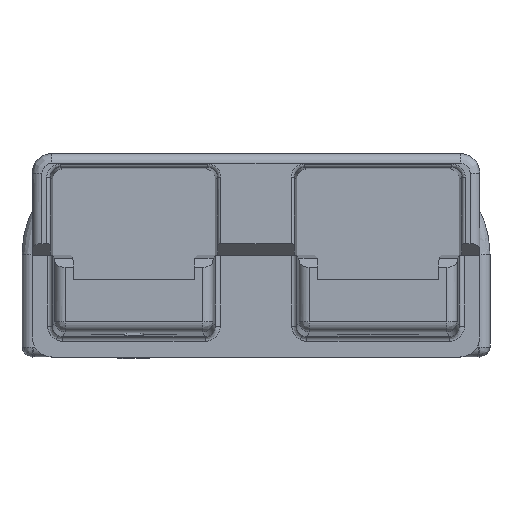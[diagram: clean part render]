
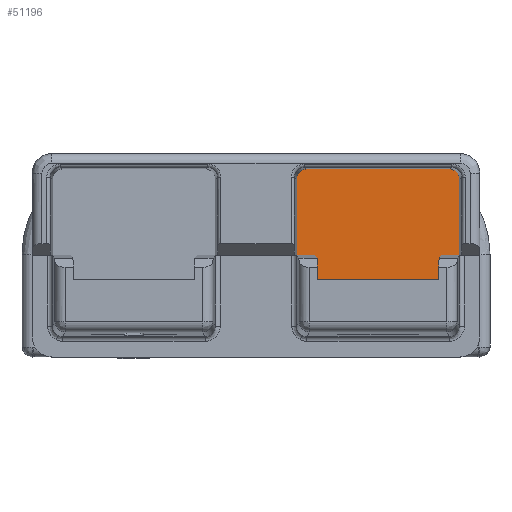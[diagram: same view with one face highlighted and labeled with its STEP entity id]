
A CAD part, front view. The second image highlights one B-rep face of the part: STEP entity #51196.
In plain terms, the highlighted planar face has unit normal (0, -1, 0).
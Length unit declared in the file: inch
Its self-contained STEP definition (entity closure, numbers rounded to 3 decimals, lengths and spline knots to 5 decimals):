
#1097 = VECTOR ( 'NONE', #36789, 39.37008 ) ;
#2072 = VECTOR ( 'NONE', #55573, 39.37008 ) ;
#2077 = ORIENTED_EDGE ( 'NONE', *, *, #55297, .T. ) ;
#2121 = CARTESIAN_POINT ( 'NONE',  ( 0.62493, -0.38582, -0.6121 ) ) ;
#3494 = CARTESIAN_POINT ( 'NONE',  ( 0.12507, -0.38582, -0.84581 ) ) ;
#4922 = CARTESIAN_POINT ( 'NONE',  ( 0.56963, -0.38582, -0.84581 ) ) ;
#4981 = EDGE_CURVE ( 'NONE', #69072, #11287, #77750, .T. ) ;
#5263 = VERTEX_POINT ( 'NONE', #71049 ) ;
#6709 = DIRECTION ( 'NONE',  ( 1., 0., 0. ) ) ;
#7014 = LINE ( 'NONE', #66188, #78593 ) ;
#7981 = EDGE_CURVE ( 'NONE', #30189, #5263, #22646, .T. ) ;
#8677 =( BOUNDED_CURVE ( )  B_SPLINE_CURVE ( 3, ( #11869, #24723, #30784, #43593 ),
 .UNSPECIFIED., .F., .F. ) 
 B_SPLINE_CURVE_WITH_KNOTS ( ( 4, 4 ),
 ( 2.15884, 3.72952 ),
 .UNSPECIFIED. ) 
 CURVE ( )  GEOMETRIC_REPRESENTATION_ITEM ( )  RATIONAL_B_SPLINE_CURVE ( ( 1., 0.805, 0.805, 1. ) ) 
 REPRESENTATION_ITEM ( '' )  );
#8988 = CARTESIAN_POINT ( 'NONE',  ( 0.62493, -0.38582, -0.59379 ) ) ;
#9508 = DIRECTION ( 'NONE',  ( 0., 0., 1. ) ) ;
#9512 = CARTESIAN_POINT ( 'NONE',  ( 0.18037, -0.38582, -0.57581 ) ) ;
#10510 = CARTESIAN_POINT ( 'NONE',  ( 0.56963, -0.38582, -0.57581 ) ) ;
#11287 = VERTEX_POINT ( 'NONE', #25710 ) ;
#11571 = CARTESIAN_POINT ( 'NONE',  ( 0.59368, -0.38582, -0.58085 ) ) ;
#11869 = CARTESIAN_POINT ( 'NONE',  ( 0.15632, -0.38582, -0.58085 ) ) ;
#12862 = CARTESIAN_POINT ( 'NONE',  ( 0.12507, -0.38582, -0.57581 ) ) ;
#13352 = DIRECTION ( 'NONE',  ( 0., -1., 0. ) ) ;
#13983 = VECTOR ( 'NONE', #65129, 39.37008 ) ;
#14319 = VECTOR ( 'NONE', #6709, 39.37008 ) ;
#14568 = ORIENTED_EDGE ( 'NONE', *, *, #7981, .T. ) ;
#15587 = ORIENTED_EDGE ( 'NONE', *, *, #53701, .T. ) ;
#18875 = AXIS2_PLACEMENT_3D ( 'NONE', #19377, #13352, #25693 ) ;
#18960 = VERTEX_POINT ( 'NONE', #73374 ) ;
#19202 = LINE ( 'NONE', #74159, #14319 ) ;
#19377 = CARTESIAN_POINT ( 'NONE',  ( 0.1175, -0.38582, -0.57581 ) ) ;
#19547 = VERTEX_POINT ( 'NONE', #76335 ) ;
#20991 = CARTESIAN_POINT ( 'NONE',  ( 0.62493, -0.38582, -0.57581 ) ) ;
#22421 = VERTEX_POINT ( 'NONE', #3494 ) ;
#22646 = LINE ( 'NONE', #80906, #1097 ) ;
#24723 = CARTESIAN_POINT ( 'NONE',  ( 0.13801, -0.38582, -0.58085 ) ) ;
#24738 = VECTOR ( 'NONE', #75593, 39.37008 ) ;
#25693 = DIRECTION ( 'NONE',  ( 0., 0., -1. ) ) ;
#25710 = CARTESIAN_POINT ( 'NONE',  ( 0.18037, -0.38582, -0.92131 ) ) ;
#28959 = ORIENTED_EDGE ( 'NONE', *, *, #71874, .T. ) ;
#29659 = VERTEX_POINT ( 'NONE', #4922 ) ;
#30189 = VERTEX_POINT ( 'NONE', #11571 ) ;
#30784 = CARTESIAN_POINT ( 'NONE',  ( 0.12507, -0.38582, -0.59379 ) ) ;
#36789 = DIRECTION ( 'NONE',  ( -1., 0., 0. ) ) ;
#37686 = ORIENTED_EDGE ( 'NONE', *, *, #48156, .T. ) ;
#38530 = PLANE ( 'NONE',  #18875 ) ;
#39314 = LINE ( 'NONE', #61593, #2072 ) ;
#39678 = VECTOR ( 'NONE', #54881, 39.37008 ) ;
#40874 = EDGE_CURVE ( 'NONE', #22421, #19547, #41389, .T. ) ;
#41389 = LINE ( 'NONE', #12862, #24738 ) ;
#41605 = EDGE_CURVE ( 'NONE', #69072, #22421, #39314, .T. ) ;
#42198 = VERTEX_POINT ( 'NONE', #50753 ) ;
#43593 = CARTESIAN_POINT ( 'NONE',  ( 0.12507, -0.38582, -0.6121 ) ) ;
#44846 = LINE ( 'NONE', #20991, #50752 ) ;
#44951 = ORIENTED_EDGE ( 'NONE', *, *, #70859, .T. ) ;
#45369 = CARTESIAN_POINT ( 'NONE',  ( 0.61199, -0.38582, -0.58085 ) ) ;
#46128 =( BOUNDED_CURVE ( )  B_SPLINE_CURVE ( 3, ( #2121, #8988, #45369, #52514 ),
 .UNSPECIFIED., .F., .F. ) 
 B_SPLINE_CURVE_WITH_KNOTS ( ( 4, 4 ),
 ( 2.55366, 4.12434 ),
 .UNSPECIFIED. ) 
 CURVE ( )  GEOMETRIC_REPRESENTATION_ITEM ( )  RATIONAL_B_SPLINE_CURVE ( ( 1., 0.805, 0.805, 1. ) ) 
 REPRESENTATION_ITEM ( '' )  );
#46442 = FACE_OUTER_BOUND ( 'NONE', #51284, .T. ) ;
#48156 = EDGE_CURVE ( 'NONE', #29659, #18960, #19202, .T. ) ;
#49043 = CARTESIAN_POINT ( 'NONE',  ( 0.56963, -0.38582, -0.92131 ) ) ;
#50752 = VECTOR ( 'NONE', #9508, 39.37008 ) ;
#50753 = CARTESIAN_POINT ( 'NONE',  ( 0.62493, -0.38582, -0.6121 ) ) ;
#51196 = ADVANCED_FACE ( 'NONE', ( #46442 ), #38530, .T. ) ;
#51284 = EDGE_LOOP ( 'NONE', ( #57848, #68897, #15587, #44951, #37686, #2077, #28959, #14568, #53566, #62532 ) ) ;
#52514 = CARTESIAN_POINT ( 'NONE',  ( 0.59368, -0.38582, -0.58085 ) ) ;
#53566 = ORIENTED_EDGE ( 'NONE', *, *, #56809, .T. ) ;
#53573 = DIRECTION ( 'NONE',  ( 1., 0., 0. ) ) ;
#53701 = EDGE_CURVE ( 'NONE', #11287, #54128, #7014, .T. ) ;
#54128 = VERTEX_POINT ( 'NONE', #49043 ) ;
#54881 = DIRECTION ( 'NONE',  ( 0., 0., 1. ) ) ;
#55297 = EDGE_CURVE ( 'NONE', #18960, #42198, #44846, .T. ) ;
#55573 = DIRECTION ( 'NONE',  ( -1., 0., 0. ) ) ;
#56809 = EDGE_CURVE ( 'NONE', #5263, #19547, #8677, .T. ) ;
#57848 = ORIENTED_EDGE ( 'NONE', *, *, #41605, .F. ) ;
#58313 = LINE ( 'NONE', #10510, #39678 ) ;
#61593 = CARTESIAN_POINT ( 'NONE',  ( -0.6325, -0.38582, -0.84581 ) ) ;
#62532 = ORIENTED_EDGE ( 'NONE', *, *, #40874, .F. ) ;
#65129 = DIRECTION ( 'NONE',  ( 0., 0., -1. ) ) ;
#66188 = CARTESIAN_POINT ( 'NONE',  ( 0.1175, -0.38582, -0.92131 ) ) ;
#68897 = ORIENTED_EDGE ( 'NONE', *, *, #4981, .T. ) ;
#69072 = VERTEX_POINT ( 'NONE', #71393 ) ;
#70859 = EDGE_CURVE ( 'NONE', #54128, #29659, #58313, .T. ) ;
#71049 = CARTESIAN_POINT ( 'NONE',  ( 0.15632, -0.38582, -0.58085 ) ) ;
#71393 = CARTESIAN_POINT ( 'NONE',  ( 0.18037, -0.38582, -0.84581 ) ) ;
#71874 = EDGE_CURVE ( 'NONE', #42198, #30189, #46128, .T. ) ;
#73374 = CARTESIAN_POINT ( 'NONE',  ( 0.62493, -0.38582, -0.84581 ) ) ;
#74159 = CARTESIAN_POINT ( 'NONE',  ( 0.1175, -0.38582, -0.84581 ) ) ;
#75593 = DIRECTION ( 'NONE',  ( 0., 0., 1. ) ) ;
#76335 = CARTESIAN_POINT ( 'NONE',  ( 0.12507, -0.38582, -0.6121 ) ) ;
#77750 = LINE ( 'NONE', #9512, #13983 ) ;
#78593 = VECTOR ( 'NONE', #53573, 39.37008 ) ;
#80906 = CARTESIAN_POINT ( 'NONE',  ( 0.1175, -0.38582, -0.58085 ) ) ;
